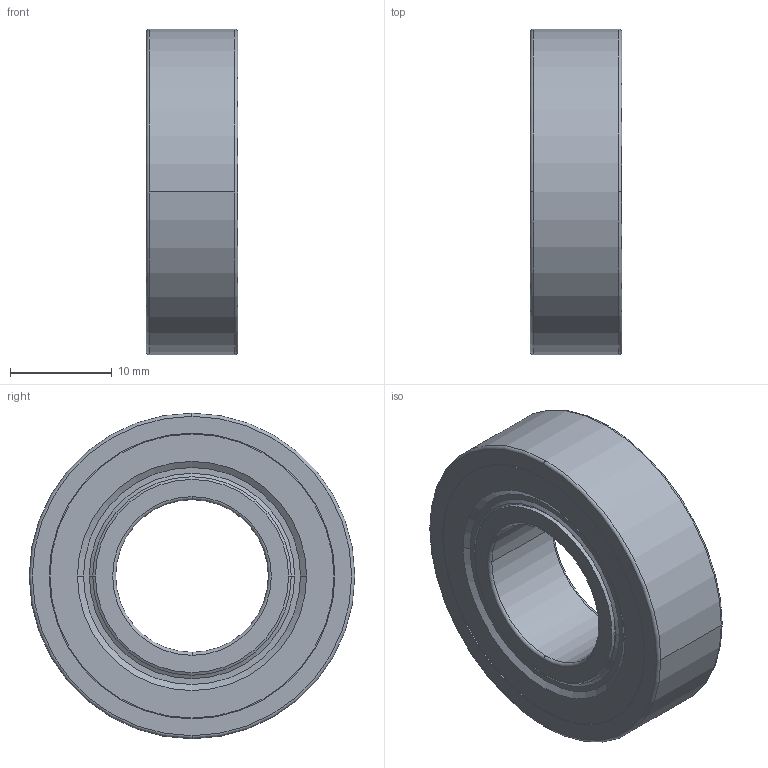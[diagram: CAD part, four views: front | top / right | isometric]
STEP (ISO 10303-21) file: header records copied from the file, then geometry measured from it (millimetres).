
FILE_DESCRIPTION(('STEP AP214'),'1');
FILE_NAME('snr_6002ee_0.stp','2023-08-11T09:19:36',('TraceParts'),('TraceParts S.A.'),'Spatial InterOp 3D',' ',' ');
FILE_SCHEMA(('AUTOMOTIVE_DESIGN { 1 0 10303 214 1 1 1 1 }'));
Length unit declared in the file: millimetre
Products named in the file (1): snr_6002ee_0_1
Bounding box: 9 x 32 x 32 mm (x, y, z)
Volume: 5161.1 mm3; surface area: 6522.3 mm2
Topology: 5 solids, 5 shells, 96 faces, 218 edges, 138 vertices
Faces by surface type: torus 28, cone 28, cylinder 24, plane 16
Entity records: 2823 total; most frequent: DIRECTION 586, CARTESIAN_POINT 457, ORIENTED_EDGE 436, AXIS2_PLACEMENT_3D 267, EDGE_CURVE 218, CIRCLE 166, VERTEX_POINT 138, EDGE_LOOP 112
